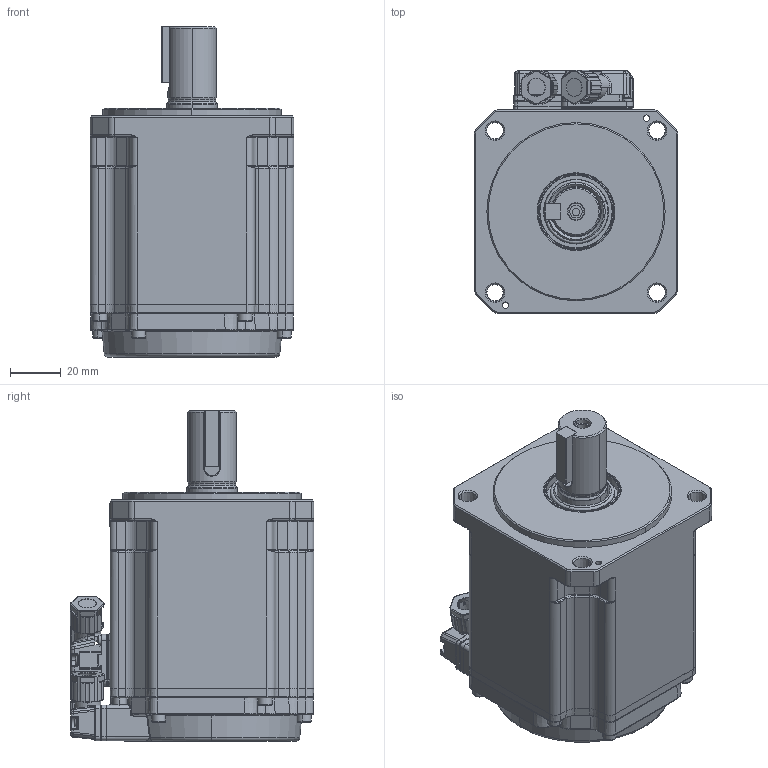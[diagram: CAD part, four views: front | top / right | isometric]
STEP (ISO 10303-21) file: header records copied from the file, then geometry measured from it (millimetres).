
FILE_DESCRIPTION (( 'STEP AP214' ), '1' );
FILE_NAME ('80x80-750W伺服电机_通用外形图_A0.STEP', '2023-09-15T01:58:36', ( '' ), ( '' ), 'SwSTEP 2.0', 'SolidWorks 2020', '' );
FILE_SCHEMA (( 'AUTOMOTIVE_DESIGN' ));
Length unit declared in the file: millimetre
Products named in the file (1): 80x80-750W伺服电机_通用外形图_A0
Bounding box: 80 x 95.65 x 129.8 mm (x, y, z)
Surface area: 52056.4 mm2 (no closed solid volume)
Topology: 0 solids, 28 shells, 1347 faces, 4763 edges, 3248 vertices
Faces by surface type: plane 451, cylinder 426, torus 214, bspline 120, cone 107, sphere 29
Entity records: 72494 total; most frequent: CARTESIAN_POINT 19122, DIRECTION 7746, ORIENTED_EDGE 7587, EDGE_CURVE 4730, VERTEX_POINT 3248, AXIS2_PLACEMENT_3D 2807, LINE 2132, VECTOR 2132
